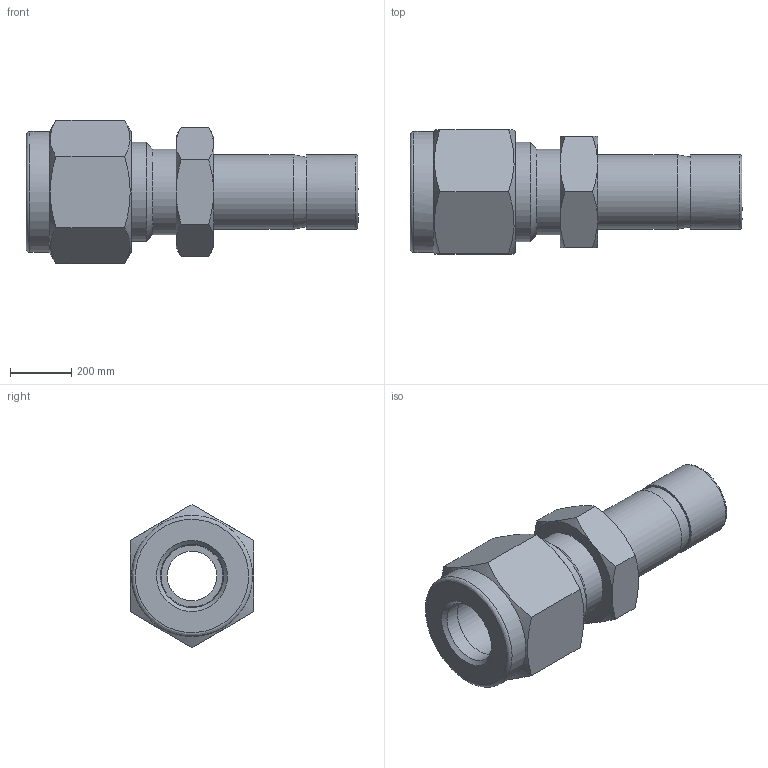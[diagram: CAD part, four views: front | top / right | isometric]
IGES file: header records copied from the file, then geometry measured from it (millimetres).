
Global section: file name: SR-5-6; native system: Autodesk Inventor 2016; preprocessor: unknown; author: DESIGNPC2; date: 20151111.180639; units: millimetre
Bounding box: 1080.09 x 403.35 x 465.75 mm (x, y, z)
Volume: 62585351.8 mm3; surface area: 2034145.7 mm2
Topology: 1 solids, 1 shells, 49 faces, 128 edges, 86 vertices
Faces by surface type: bspline 49
